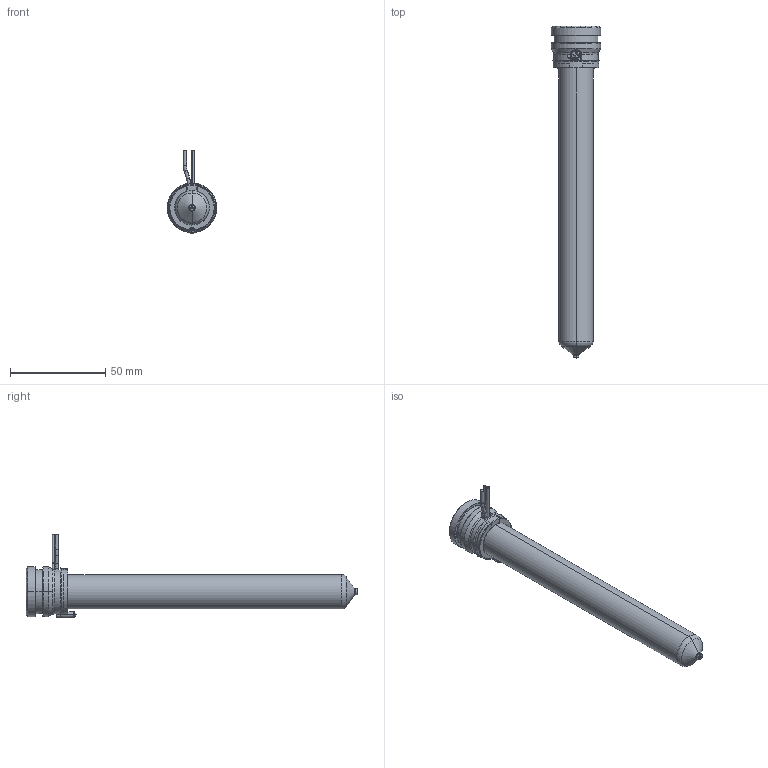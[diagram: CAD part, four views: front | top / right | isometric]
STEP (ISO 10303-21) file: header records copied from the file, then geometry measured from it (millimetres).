
FILE_DESCRIPTION((''),'2;1');
FILE_NAME('MPN-08-24-VP3-156-A','2026-02-05T12:02:15',('UPTIO'),('Thermoplay S.p.A.'),'CREO PARAMETRIC BY PTC INC, 2023494','CREO PARAMETRIC BY PTC INC, 2023494','');
FILE_SCHEMA(('CONFIG_CONTROL_DESIGN','SHAPE_APPEARANCE_LAYERS_GROUPS'));
Length unit declared in the file: millimetre
Products named in the file (1): MPN-08-24-VP3-156-A
Bounding box: 26 x 174.1 x 43.5 mm (x, y, z)
Volume: 32898.7 mm3; surface area: 42903.2 mm2
Topology: 2 solids, 3 shells, 587 faces, 1560 edges, 971 vertices
Faces by surface type: cylinder 184, plane 143, bspline 108, torus 70, cone 68, sphere 8, extrusion 6
Entity records: 31956 total; most frequent: CARTESIAN_POINT 14722, ORIENTED_EDGE 3104, DIRECTION 2714, EDGE_CURVE 1552, AXIS2_PLACEMENT_3D 1061, VERTEX_POINT 971, EDGE_LOOP 615, VECTOR 592
